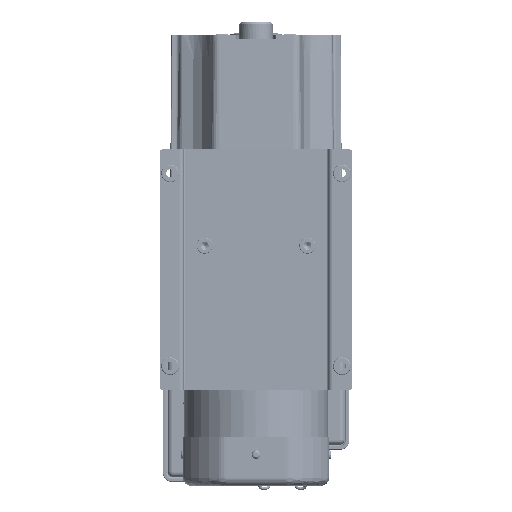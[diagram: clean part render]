
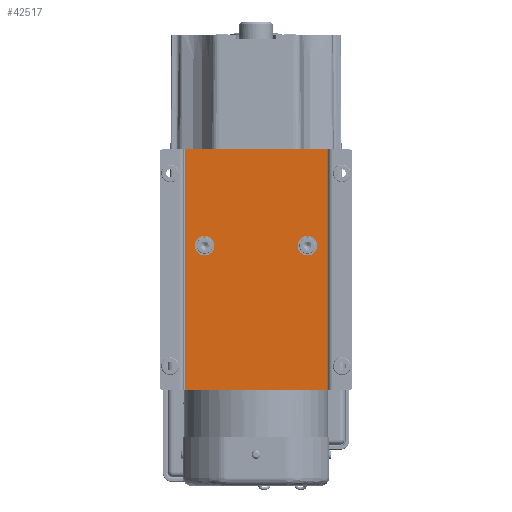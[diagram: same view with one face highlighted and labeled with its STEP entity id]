
A CAD part, front view. The second image highlights one B-rep face of the part: STEP entity #42517.
In plain terms, the highlighted planar face has unit normal (0, -1, 0).
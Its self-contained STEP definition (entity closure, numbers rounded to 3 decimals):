
#4553 = DIRECTION ( 'NONE',  ( 0., 1., 0. ) ) ;
#6808 = DIRECTION ( 'NONE',  ( 0., 1., 0. ) ) ;
#13120 = AXIS2_PLACEMENT_3D ( 'NONE', #199913, #54409, #224383 ) ;
#19215 = CARTESIAN_POINT ( 'NONE',  ( 32., 10., 93.25 ) ) ;
#21297 = CARTESIAN_POINT ( 'NONE',  ( -32., 10., 90. ) ) ;
#23268 = CIRCLE ( 'NONE', #63905, 3.25 ) ;
#26943 = AXIS2_PLACEMENT_3D ( 'NONE', #32227, #202105, #56556 ) ;
#32227 = CARTESIAN_POINT ( 'NONE',  ( -32., 10., 90. ) ) ;
#42517 = ADVANCED_FACE ( 'NONE', ( #62329, #176289, #134572 ), #248802, .F. ) ;
#45700 = DIRECTION ( 'NONE',  ( 0., 0., 1. ) ) ;
#45741 = EDGE_CURVE ( 'NONE', #119869, #192833, #266610, .T. ) ;
#54409 = DIRECTION ( 'NONE',  ( 0., 1., 0. ) ) ;
#55552 = CIRCLE ( 'NONE', #13120, 3.25 ) ;
#55851 = CARTESIAN_POINT ( 'NONE',  ( 0., 10., 0. ) ) ;
#56556 = DIRECTION ( 'NONE',  ( 0., 0., 1. ) ) ;
#59852 = CARTESIAN_POINT ( 'NONE',  ( -44., 10., 0. ) ) ;
#62329 = FACE_BOUND ( 'NONE', #258149, .T. ) ;
#63905 = AXIS2_PLACEMENT_3D ( 'NONE', #149934, #4553, #174274 ) ;
#64234 = DIRECTION ( 'NONE',  ( 0., 0., -1. ) ) ;
#71174 = CIRCLE ( 'NONE', #26943, 3.25 ) ;
#72322 = CARTESIAN_POINT ( 'NONE',  ( -44., 10., 150. ) ) ;
#72956 = EDGE_LOOP ( 'NONE', ( #88686, #130949 ) ) ;
#79206 = VERTEX_POINT ( 'NONE', #183495 ) ;
#80266 = DIRECTION ( 'NONE',  ( 0., 0., 1. ) ) ;
#88686 = ORIENTED_EDGE ( 'NONE', *, *, #118246, .T. ) ;
#89977 = ORIENTED_EDGE ( 'NONE', *, *, #275199, .F. ) ;
#103264 = CARTESIAN_POINT ( 'NONE',  ( -45., 10., 150. ) ) ;
#108179 = CARTESIAN_POINT ( 'NONE',  ( 44., 10., 0. ) ) ;
#112810 = CARTESIAN_POINT ( 'NONE',  ( -32., 10., 93.25 ) ) ;
#116339 = ORIENTED_EDGE ( 'NONE', *, *, #193050, .T. ) ;
#118246 = EDGE_CURVE ( 'NONE', #256286, #203991, #55552, .T. ) ;
#119869 = VERTEX_POINT ( 'NONE', #72322 ) ;
#121983 = DIRECTION ( 'NONE',  ( 1., 0., 0. ) ) ;
#124366 = EDGE_CURVE ( 'NONE', #203991, #256286, #23268, .T. ) ;
#130949 = ORIENTED_EDGE ( 'NONE', *, *, #124366, .T. ) ;
#134572 = FACE_OUTER_BOUND ( 'NONE', #135824, .T. ) ;
#135824 = EDGE_LOOP ( 'NONE', ( #89977, #161524, #311110, #160226 ) ) ;
#137386 = VECTOR ( 'NONE', #64234, 1000. ) ;
#144190 = LINE ( 'NONE', #291904, #208846 ) ;
#149934 = CARTESIAN_POINT ( 'NONE',  ( 32., 10., 90. ) ) ;
#151860 = AXIS2_PLACEMENT_3D ( 'NONE', #103264, #6808, #176567 ) ;
#160226 = ORIENTED_EDGE ( 'NONE', *, *, #182036, .T. ) ;
#161524 = ORIENTED_EDGE ( 'NONE', *, *, #45741, .T. ) ;
#166012 = VECTOR ( 'NONE', #298994, 1000. ) ;
#174274 = DIRECTION ( 'NONE',  ( 0., 0., 1. ) ) ;
#176289 = FACE_BOUND ( 'NONE', #72956, .T. ) ;
#176567 = DIRECTION ( 'NONE',  ( 0., 0., 1. ) ) ;
#182036 = EDGE_CURVE ( 'NONE', #284113, #79206, #314210, .T. ) ;
#183495 = CARTESIAN_POINT ( 'NONE',  ( 44., 10., 150. ) ) ;
#191127 = DIRECTION ( 'NONE',  ( 0., 1., 0. ) ) ;
#192833 = VERTEX_POINT ( 'NONE', #59852 ) ;
#193050 = EDGE_CURVE ( 'NONE', #253218, #301659, #259850, .T. ) ;
#199913 = CARTESIAN_POINT ( 'NONE',  ( 32., 10., 90. ) ) ;
#202105 = DIRECTION ( 'NONE',  ( 0., 1., 0. ) ) ;
#203767 = CARTESIAN_POINT ( 'NONE',  ( 32., 10., 86.75 ) ) ;
#203991 = VERTEX_POINT ( 'NONE', #203767 ) ;
#208846 = VECTOR ( 'NONE', #121983, 1000. ) ;
#209889 = CARTESIAN_POINT ( 'NONE',  ( -44., 10., 150. ) ) ;
#223934 = AXIS2_PLACEMENT_3D ( 'NONE', #21297, #191127, #45700 ) ;
#224383 = DIRECTION ( 'NONE',  ( 0., 0., 1. ) ) ;
#225943 = CARTESIAN_POINT ( 'NONE',  ( 44., 10., 150. ) ) ;
#230694 = LINE ( 'NONE', #55851, #166012 ) ;
#248802 = PLANE ( 'NONE',  #151860 ) ;
#253218 = VERTEX_POINT ( 'NONE', #284270 ) ;
#254580 = EDGE_CURVE ( 'NONE', #301659, #253218, #71174, .T. ) ;
#256286 = VERTEX_POINT ( 'NONE', #19215 ) ;
#258149 = EDGE_LOOP ( 'NONE', ( #272134, #116339 ) ) ;
#259850 = CIRCLE ( 'NONE', #223934, 3.25 ) ;
#264954 = VECTOR ( 'NONE', #80266, 1000. ) ;
#266610 = LINE ( 'NONE', #209889, #137386 ) ;
#272134 = ORIENTED_EDGE ( 'NONE', *, *, #254580, .T. ) ;
#275199 = EDGE_CURVE ( 'NONE', #119869, #79206, #144190, .T. ) ;
#284113 = VERTEX_POINT ( 'NONE', #108179 ) ;
#284270 = CARTESIAN_POINT ( 'NONE',  ( -32., 10., 86.75 ) ) ;
#291904 = CARTESIAN_POINT ( 'NONE',  ( 0., 10., 150. ) ) ;
#292348 = EDGE_CURVE ( 'NONE', #284113, #192833, #230694, .T. ) ;
#298994 = DIRECTION ( 'NONE',  ( -1., 0., 0. ) ) ;
#301659 = VERTEX_POINT ( 'NONE', #112810 ) ;
#311110 = ORIENTED_EDGE ( 'NONE', *, *, #292348, .F. ) ;
#314210 = LINE ( 'NONE', #225943, #264954 ) ;
